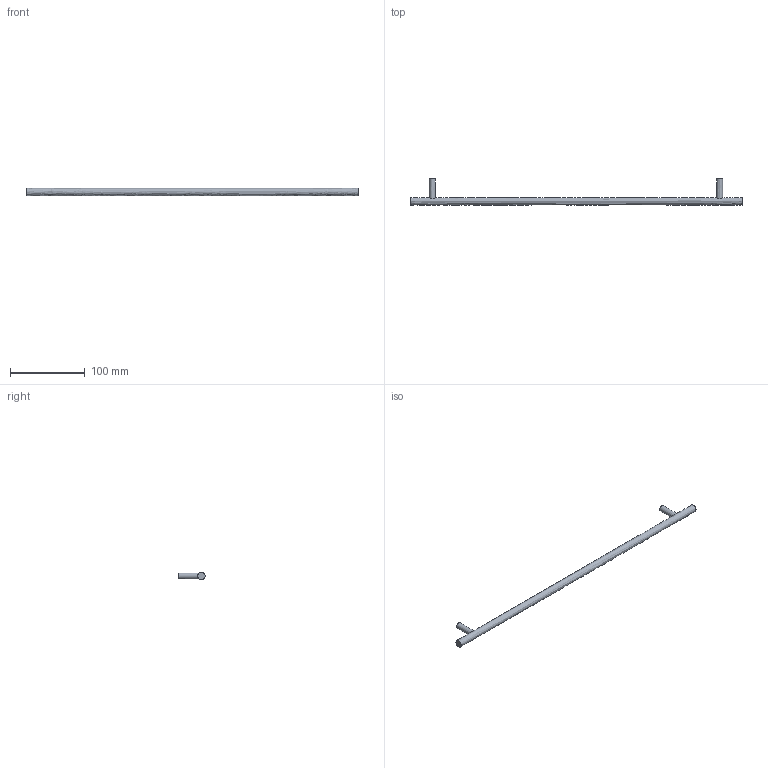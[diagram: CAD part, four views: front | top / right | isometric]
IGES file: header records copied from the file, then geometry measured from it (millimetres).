
Start section: Data from Parasolid IGES Translator 15.0.47, Copyright(c) 2006 Siemens P LM Software. All Rights Reserved.
Global section: file name: 9070999.igs; native system:  By UGS Corp.; preprocessor: XPlus GENERIC/IGES 3.0; author: Noname; organization: Noname; date: 20140122.181250; units: millimetre
Bounding box: 444 x 35 x 10 mm (x, y, z)
Surface area: 15700.1 mm2 (no closed solid volume)
Topology: 0 solids, 0 shells, 11 faces, 30 edges, 22 vertices
Faces by surface type: extrusion 6, revolution 5
